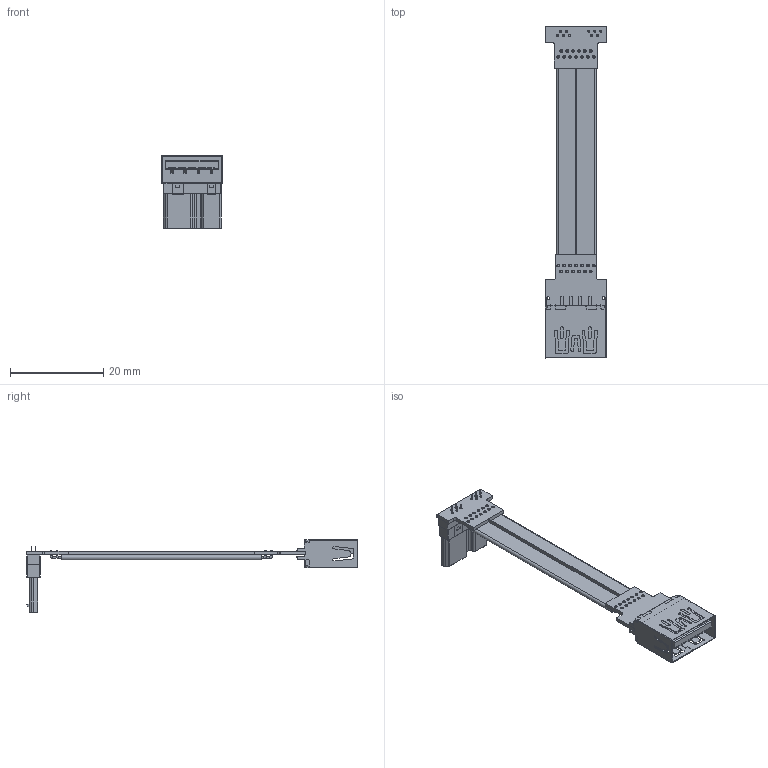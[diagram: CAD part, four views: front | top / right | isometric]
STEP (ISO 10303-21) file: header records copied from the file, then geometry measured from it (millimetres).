
FILE_DESCRIPTION(('Open CASCADE Model'),'2;1');
FILE_NAME('Open CASCADE Shape Model','2022-04-17T17:19:59',('Author'),( 'Open CASCADE'),'Open CASCADE STEP processor 6.8','Open CASCADE 6.8' ,'Unknown');
FILE_SCHEMA(('AUTOMOTIVE_DESIGN { 1 0 10303 214 1 1 1 1 }'));
Length unit declared in the file: millimetre
Products named in the file (53): PCB; Board; Open CASCADE STEP translator 6.8 8.1.1; _1; USB_傻遴20211224(5); Designator22; micro_usb_3.0; Free-Models; cable13-US2A
Assembly tree (52 placements, depth 3):
  PCB
    Board
      Open CASCADE STEP translator 6.8 8.1.1
    _1
      USB_傻遴20211224(5)
      USB_傻遴20211224(5)
      USB_傻遴20211224(5)
      USB_傻遴20211224(5)
      USB_傻遴20211224(5)
      USB_傻遴20211224(5)
      USB_傻遴20211224(5)
      USB_傻遴20211224(5)
      USB_傻遴20211224(5)
      USB_傻遴20211224(5)
      USB_傻遴20211224(5)
      USB_傻遴20211224(5)
      USB_傻遴20211224(5)
      USB_傻遴20211224(5)
      USB_傻遴20211224(5)
      USB_傻遴20211224(5)
      USB_傻遴20211224(5)
      USB_傻遴20211224(5)
      USB_傻遴20211224(5)
    Designator22
      micro_usb_3.0
    Free-Models
      cable13-US2A
      cable13-US2A
      cable13-US2A
      cable13-US2A
      cable13-US2A
      cable13-US2A
      cable13-US2A
      cable13-US2A
      cable13-US2A
      cable13-US2A
      cable13-US2A
      cable13-US2A
      cable13-US2A
      cable13-US2A
      cable13-US2A
      cable13-US2A
      cable13-US2A
      cable13-US2A
      cable13-US2A
      cable13-US2A
      cable13-US2A
      cable13-US2A
      cable13-US2A
      cable13-US2A
      cable13-US2A
      cable13-US2A
      cable13-US2A
Bounding box: 13.28 x 71.28 x 15.58 mm (x, y, z)
Volume: 1194.9 mm3; surface area: 3902.2 mm2
Topology: 48 solids, 48 shells, 986 faces, 2531 edges, 1664 vertices
Faces by surface type: plane 607, cylinder 353, torus 26
Full cylindrical faces by diameter (mm): 0.4 x65, 0.45 x10, 0.6 x26
Entity records: 39248 total; most frequent: CARTESIAN_POINT 5455, DIRECTION 5227, ORIENTED_EDGE 5062, EDGE_CURVE 2531, AXIS2_PLACEMENT_3D 1748, LINE 1731, VECTOR 1731, VERTEX_POINT 1664
